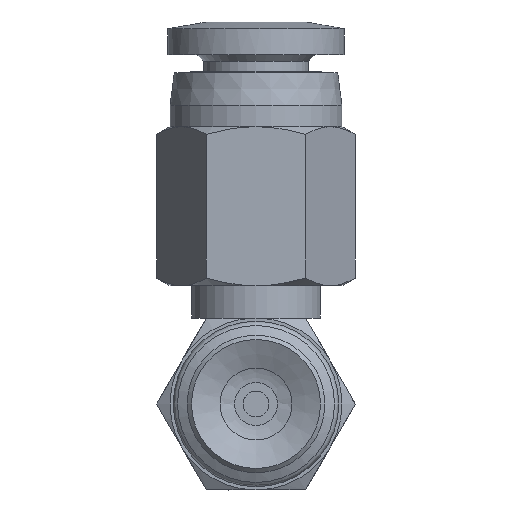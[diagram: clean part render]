
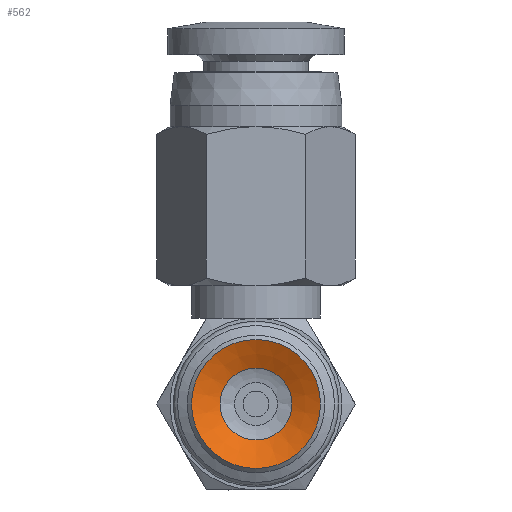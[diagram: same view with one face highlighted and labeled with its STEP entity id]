
A CAD part, front view. The second image highlights one B-rep face of the part: STEP entity #562.
In plain terms, the highlighted conical face has half-angle 64.998 degrees and reference radius 1.285 mm.
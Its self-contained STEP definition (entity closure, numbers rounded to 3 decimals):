
#562=ADVANCED_FACE('',(#878,#879),#880,.F.);
#878=FACE_BOUND('',#1303,.T.);
#879=FACE_OUTER_BOUND('',#1304,.T.);
#880=CONICAL_SURFACE('',#1305,1.285,1.134);
#1303=EDGE_LOOP('',(#2335));
#1304=EDGE_LOOP('',(#2336));
#1305=AXIS2_PLACEMENT_3D('',#2337,#2338,#2339);
#2335=ORIENTED_EDGE('',*,*,#2837,.T.);
#2336=ORIENTED_EDGE('',*,*,#2836,.T.);
#2337=CARTESIAN_POINT('',(0.0,0.8,0.0));
#2338=DIRECTION('',(-0.0,-1.0,0.));
#2339=DIRECTION('',(0.0,0.,-1.0));
#2836=EDGE_CURVE('',#3239,#3239,#3240,.T.);
#2837=EDGE_CURVE('',#3241,#3241,#3242,.T.);
#3239=VERTEX_POINT('',#4077);
#3240=CIRCLE('',#4078,3.);
#3241=VERTEX_POINT('',#4079);
#3242=CIRCLE('',#4080,1.67);
#4077=CARTESIAN_POINT('',(0.0,0.,-3.));
#4078=AXIS2_PLACEMENT_3D('',#4783,#4784,#4785);
#4079=CARTESIAN_POINT('',(0.0,0.62,-1.67));
#4080=AXIS2_PLACEMENT_3D('',#4786,#4787,#4788);
#4783=CARTESIAN_POINT('',(0.0,0.0,0.0));
#4784=DIRECTION('',(0.0,-1.0,0.));
#4785=DIRECTION('',(0.0,0.,-1.0));
#4786=CARTESIAN_POINT('',(0.0,0.62,0.0));
#4787=DIRECTION('',(0.0,1.0,0.));
#4788=DIRECTION('',(0.0,0.,-1.0));
